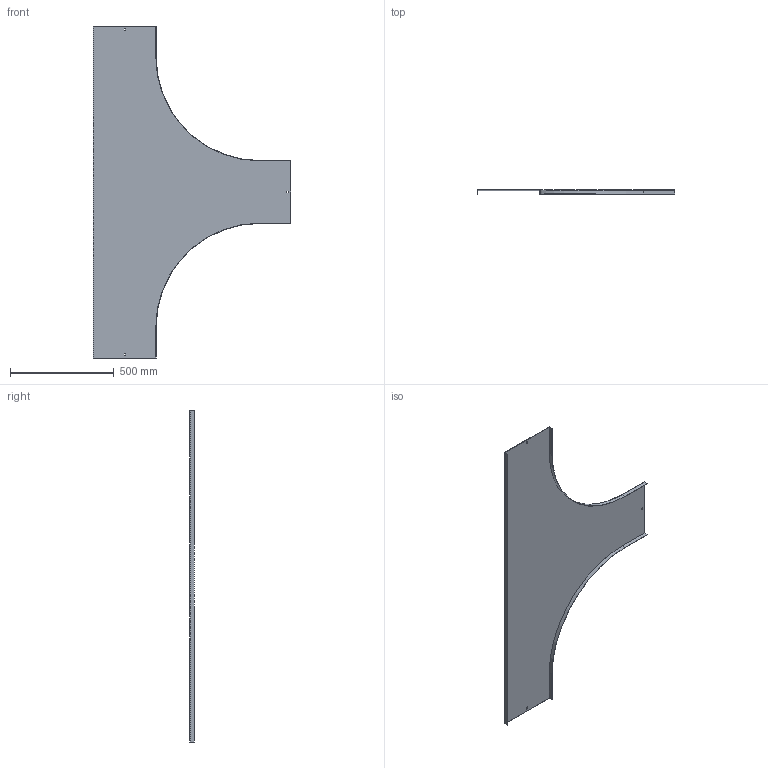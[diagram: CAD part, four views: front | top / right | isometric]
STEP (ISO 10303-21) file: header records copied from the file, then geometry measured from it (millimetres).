
FILE_DESCRIPTION (( 'STEP AP214' ), '1' );
FILE_NAME ('15N5R300.step', '2025-02-21T12:05:58', ( '' ), ( '' ), 'SwSTEP 2.0', 'SolidWorks 2023', '' );
FILE_SCHEMA (( 'AUTOMOTIVE_DESIGN' ));
Length unit declared in the file: millimetre
Products named in the file (1): 15N5R300
Bounding box: 951.5 x 20 x 1600 mm (x, y, z)
Volume: 1286241.3 mm3; surface area: 1722307.1 mm2
Topology: 1 solids, 1 shells, 34 faces, 96 edges, 64 vertices
Faces by surface type: plane 30, cylinder 4
Entity records: 1123 total; most frequent: CARTESIAN_POINT 195, ORIENTED_EDGE 192, DIRECTION 174, EDGE_CURVE 96, VECTOR 88, LINE 88, VERTEX_POINT 64, AXIS2_PLACEMENT_3D 43
